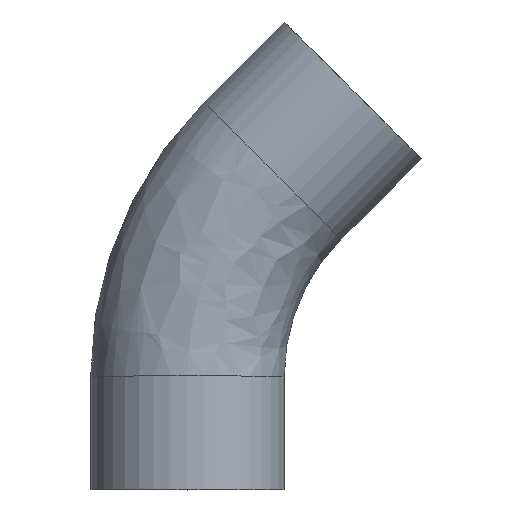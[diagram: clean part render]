
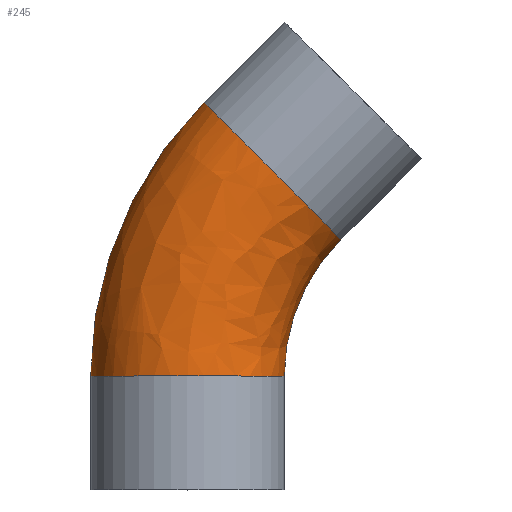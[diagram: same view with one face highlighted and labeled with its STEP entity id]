
A CAD part, top view. The second image highlights one B-rep face of the part: STEP entity #245.
In plain terms, the highlighted free-form (B-spline) face has degree [3, 3] with [4, 4] control points.
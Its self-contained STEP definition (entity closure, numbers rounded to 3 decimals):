
#9 = EDGE_CURVE ( 'NONE', #234, #362, #388, .T. ) ;
#17 = CARTESIAN_POINT ( 'NONE',  ( -38.1, 85.715, 0. ) ) ;
#43 = CARTESIAN_POINT ( 'NONE',  ( 114.3, 44.755, 0. ) ) ;
#45 = CIRCLE ( 'NONE', #345, 38.1 ) ;
#50 = CARTESIAN_POINT ( 'NONE',  ( -38.1, 85.715, 76.2 ) ) ;
#60 = EDGE_CURVE ( 'NONE', #265, #234, #303, .T. ) ;
#68 = CARTESIAN_POINT ( 'NONE',  ( -38.1, 44.755, 76.2 ) ) ;
#71 = CARTESIAN_POINT ( 'NONE',  ( -22.426, 123.556, 76.2 ) ) ;
#90 = EDGE_CURVE ( 'NONE', #265, #466, #224, .T. ) ;
#106 = EDGE_CURVE ( 'NONE', #362, #466, #45, .T. ) ;
#114 = ORIENTED_EDGE ( 'NONE', *, *, #9, .T. ) ;
#118 =( BOUNDED_SURFACE ( )  B_SPLINE_SURFACE ( 3, 3, ( 
 ( #238, #17, #366, #443 ),
 ( #68, #50, #71, #189 ),
 ( #444, #449, #451, #453 ),
 ( #454, #456, #457, #461 ) ),
 .UNSPECIFIED., .F., .F., .T. ) 
 B_SPLINE_SURFACE_WITH_KNOTS ( ( 4, 4 ),
 ( 4, 4 ),
 ( 0., 1. ),
 ( 0., 1. ),
 .UNSPECIFIED. ) 
 GEOMETRIC_REPRESENTATION_ITEM ( )  RATIONAL_B_SPLINE_SURFACE ( (
 ( 1., 0.949, 0.949, 1.),
 ( 0.333, 0.316, 0.316, 0.333),
 ( 0.333, 0.316, 0.316, 0.333),
 ( 1., 0.949, 0.949, 1.) ) ) 
 REPRESENTATION_ITEM ( '' )  SURFACE ( )  );
#123 = ORIENTED_EDGE ( 'NONE', *, *, #60, .T. ) ;
#125 = CARTESIAN_POINT ( 'NONE',  ( 6.537, 152.518, 0. ) ) ;
#170 = CARTESIAN_POINT ( 'NONE',  ( 114.3, 44.755, 0. ) ) ;
#181 = AXIS2_PLACEMENT_3D ( 'NONE', #170, #198, #316 ) ;
#182 = ORIENTED_EDGE ( 'NONE', *, *, #90, .F. ) ;
#189 = CARTESIAN_POINT ( 'NONE',  ( 6.537, 152.518, 76.2 ) ) ;
#198 = DIRECTION ( 'NONE',  ( 0., 0., -1. ) ) ;
#205 = DIRECTION ( 'NONE',  ( 0., 1., 0. ) ) ;
#224 = CIRCLE ( 'NONE', #322, 152.4 ) ;
#230 = CARTESIAN_POINT ( 'NONE',  ( -38.1, 44.755, 0. ) ) ;
#233 = FACE_OUTER_BOUND ( 'NONE', #296, .T. ) ;
#234 = VERTEX_POINT ( 'NONE', #377 ) ;
#238 = CARTESIAN_POINT ( 'NONE',  ( -38.1, 44.755, 0. ) ) ;
#245 = ADVANCED_FACE ( 'NONE', ( #233 ), #118, .T. ) ;
#259 = CARTESIAN_POINT ( 'NONE',  ( 60.418, 98.637, 0. ) ) ;
#262 = AXIS2_PLACEMENT_3D ( 'NONE', #309, #205, #331 ) ;
#265 = VERTEX_POINT ( 'NONE', #230 ) ;
#296 = EDGE_LOOP ( 'NONE', ( #123, #114, #378, #182 ) ) ;
#303 = CIRCLE ( 'NONE', #262, 38.1 ) ;
#309 = CARTESIAN_POINT ( 'NONE',  ( 0., 44.755, 0. ) ) ;
#312 = DIRECTION ( 'NONE',  ( -0.707, -0.707, 0. ) ) ;
#316 = DIRECTION ( 'NONE',  ( -1., 0., 0. ) ) ;
#322 = AXIS2_PLACEMENT_3D ( 'NONE', #43, #336, #326 ) ;
#326 = DIRECTION ( 'NONE',  ( -1., 0., 0. ) ) ;
#331 = DIRECTION ( 'NONE',  ( -1., 0., 0. ) ) ;
#336 = DIRECTION ( 'NONE',  ( 0., 0., -1. ) ) ;
#341 = CARTESIAN_POINT ( 'NONE',  ( 33.478, 125.578, 0. ) ) ;
#345 = AXIS2_PLACEMENT_3D ( 'NONE', #341, #312, #347 ) ;
#347 = DIRECTION ( 'NONE',  ( -0.707, 0.707, 0. ) ) ;
#362 = VERTEX_POINT ( 'NONE', #259 ) ;
#366 = CARTESIAN_POINT ( 'NONE',  ( -22.426, 123.556, 0. ) ) ;
#377 = CARTESIAN_POINT ( 'NONE',  ( 38.1, 44.755, 0. ) ) ;
#378 = ORIENTED_EDGE ( 'NONE', *, *, #106, .T. ) ;
#388 = CIRCLE ( 'NONE', #181, 76.2 ) ;
#443 = CARTESIAN_POINT ( 'NONE',  ( 6.537, 152.518, 0. ) ) ;
#444 = CARTESIAN_POINT ( 'NONE',  ( 38.1, 44.755, 76.2 ) ) ;
#449 = CARTESIAN_POINT ( 'NONE',  ( 38.1, 65.235, 76.2 ) ) ;
#451 = CARTESIAN_POINT ( 'NONE',  ( 45.937, 84.156, 76.2 ) ) ;
#453 = CARTESIAN_POINT ( 'NONE',  ( 60.418, 98.637, 76.2 ) ) ;
#454 = CARTESIAN_POINT ( 'NONE',  ( 38.1, 44.755, 0. ) ) ;
#456 = CARTESIAN_POINT ( 'NONE',  ( 38.1, 65.235, 0. ) ) ;
#457 = CARTESIAN_POINT ( 'NONE',  ( 45.937, 84.156, 0. ) ) ;
#461 = CARTESIAN_POINT ( 'NONE',  ( 60.418, 98.637, 0. ) ) ;
#466 = VERTEX_POINT ( 'NONE', #125 ) ;
